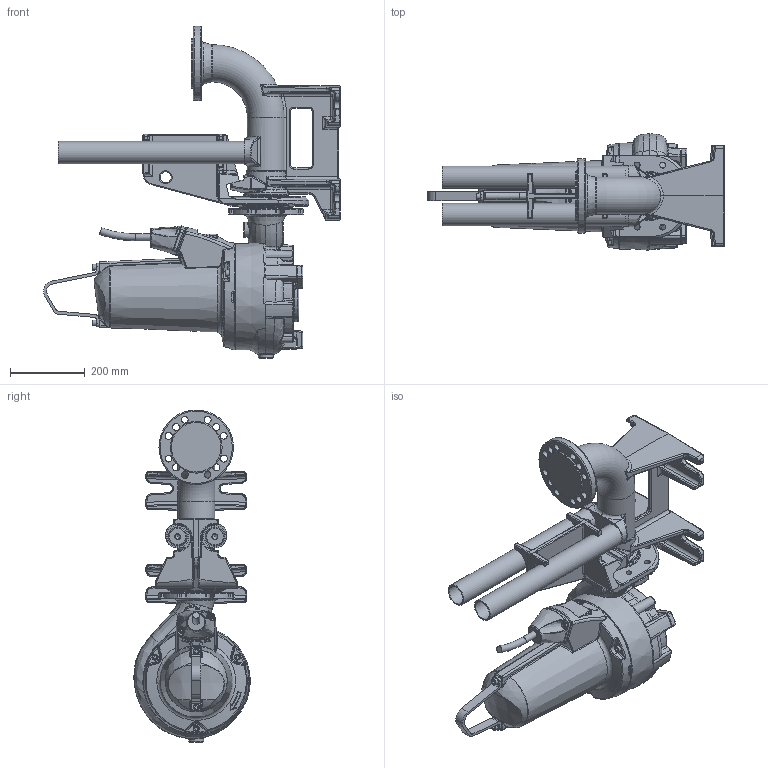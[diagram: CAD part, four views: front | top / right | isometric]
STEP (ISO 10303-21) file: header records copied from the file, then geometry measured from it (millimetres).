
FILE_DESCRIPTION (( 'STEP AP203' ), '1' );
FILE_NAME ('XFP80C-CB1_PE1_Wet_Dual Rail-.step', '2024-01-16T15:14:33', ( '' ), ( '' ), 'SwSTEP 2.0', 'SolidWorks 2017', '' );
FILE_SCHEMA (( 'CONFIG_CONTROL_DESIGN' ));
Length unit declared in the file: millimetre
Products named in the file (2): XFP80C-CB1_PE1_Wet_Dual Rail-
Bounding box: 796.86 x 312.24 x 891.21 mm (x, y, z)
Volume: 33693300.2 mm3; surface area: 1843426.9 mm2
Topology: 8 solids, 13 shells, 2457 faces, 5897 edges, 3335 vertices
Faces by surface type: bspline 887, cylinder 654, plane 447, torus 243, sphere 137, cone 89
Full cylindrical faces by diameter (mm): 6 x1, 6.8 x2, 8 x4, 8.5 x7, 9 x2, 10 x11, 10.5 x3, 11 x3, 13 x2, 14 x2, 16 x17, 18 x4, 18.7 x1, 19 x8, 30 x1, 52.5 x2, 54 x2, 60.3 x2, 133 x1, 138 x1, 200 x1, 222 x1
Entity records: 117978 total; most frequent: CARTESIAN_POINT 69812, ORIENTED_EDGE 11032, DIRECTION 8519, EDGE_CURVE 5516, AXIS2_PLACEMENT_3D 3527, VERTEX_POINT 3257, EDGE_LOOP 2705, FACE_OUTER_BOUND 2568
